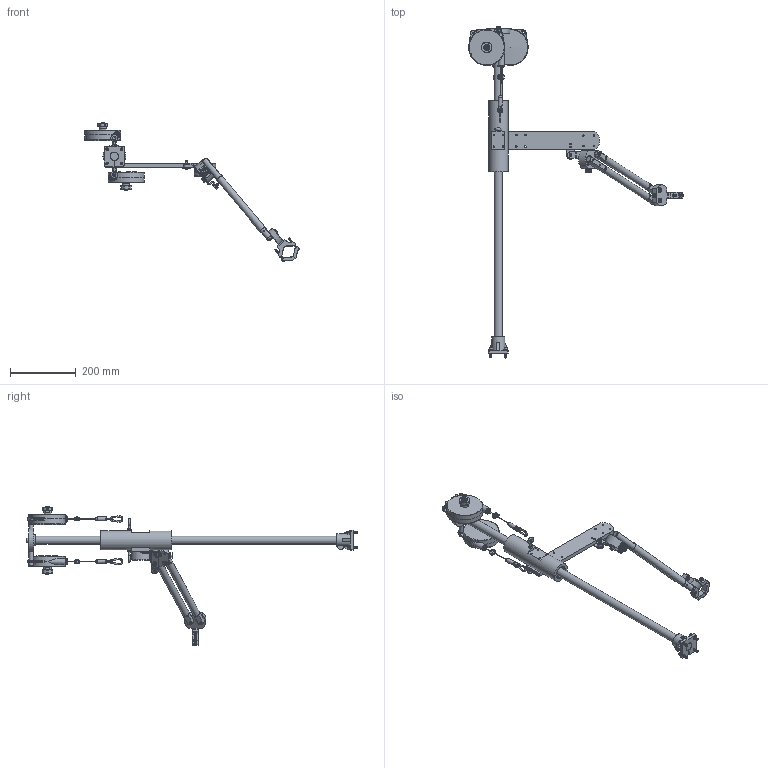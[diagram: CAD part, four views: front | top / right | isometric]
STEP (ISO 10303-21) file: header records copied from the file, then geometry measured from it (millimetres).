
FILE_DESCRIPTION (( 'STEP AP214' ), '1' );
FILE_NAME ('040.0004.000.STEP', '2017-09-19T11:45:31', ( 'sogea' ), ( 'Hewlett-Packard Company' ), 'SwSTEP 2.0', 'SolidWorks 2016', '' );
FILE_SCHEMA (( 'AUTOMOTIVE_DESIGN' ));
Length unit declared in the file: millimetre
Products named in the file (1): 040.0004.000
Bounding box: 650.41 x 1006.4 x 422.73 mm (x, y, z)
Surface area: 403737.2 mm2 (no closed solid volume)
Topology: 0 solids, 248 shells, 1247 faces, 4914 edges, 3679 vertices
Faces by surface type: plane 576, cylinder 274, cone 264, bspline 104, torus 29
Full cylindrical faces by diameter (mm): 2 x6, 3 x3, 3.3 x4, 4 x4, 4.2 x12, 5 x2, 5.5 x6, 6 x4, 6.5 x1, 6.8 x1, 7 x1, 7.64 x1, 8 x3, 8.5 x3, 9 x12, 9.5 x2, 10 x9, 12 x6, 13 x5, 14 x2, 15 x2, 16 x1, 19 x6, 19.5 x1, 20 x1, 21 x2, 21.5 x4, 25 x1, 30 x1, 32 x2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
Entity records: 81943 total; most frequent: CARTESIAN_POINT 32880, DIRECTION 6477, ORIENTED_EDGE 6071, EDGE_CURVE 4426, VERTEX_POINT 3613, AXIS2_PLACEMENT_3D 2446, EDGE_LOOP 1860, LINE 1585
